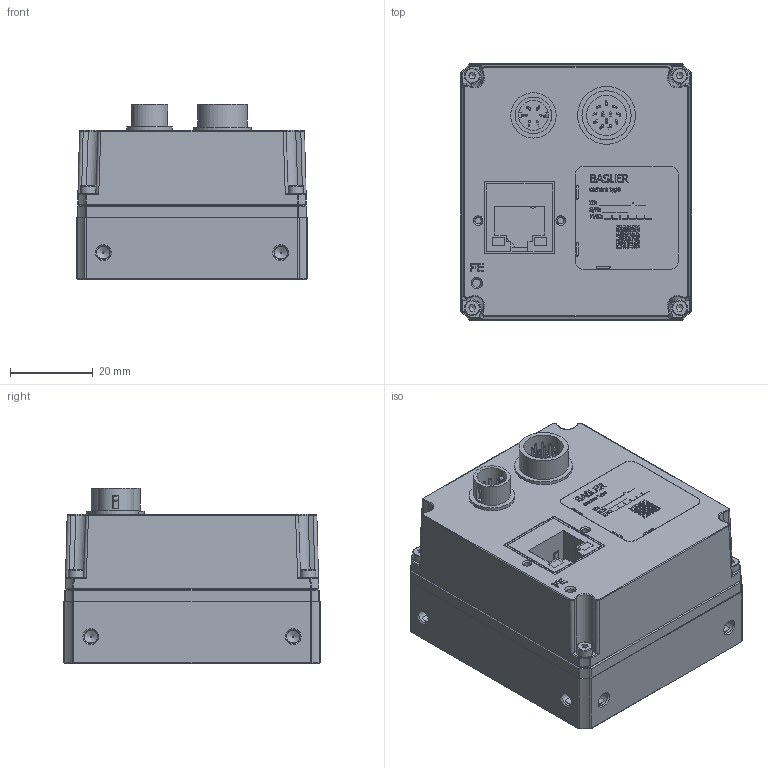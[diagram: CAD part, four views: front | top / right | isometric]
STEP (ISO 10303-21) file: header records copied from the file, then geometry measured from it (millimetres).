
FILE_DESCRIPTION(/* description */ (''),/* implementation_level */ '2;1');
FILE_NAME(/* name */ 'C:\Users\jobserver\Workspace\Designs\Storage\2012\10\018877.stp',/* time_stamp */ '2024-09-13T14:13:51+02:00',/* author */ ('rschmidt'),/* organization */ (''),/* preprocessor_version */ 'ST-DEVELOPER v18.1',/* originating_system */ 'Autodesk Inventor 2022',/* authorisation */ '0 mm^3');
FILE_SCHEMA (('CONFIG_CONTROL_DESIGN'));
Products named in the file (1): 018877
Bounding box: 56 x 62 x 42.45 mm (x, y, z)
Volume: 112300.5 mm3; surface area: 18786.3 mm2
Topology: 3 solids, 20 shells, 1731 faces, 4821 edges, 3187 vertices
Faces by surface type: plane 950, cylinder 344, bspline 260, cone 146, sphere 19, torus 12
Full cylindrical faces by diameter (mm): 0.55 x6, 0.6 x12, 1.567 x2, 2 x4, 2.013 x5, 2.1 x1, 3.242 x12, 3.8 x4, 8.85 x1, 9.7 x1, 11 x1, 11.9 x1, 14 x1, 46.7 x1, 47 x1
Entity records: 61327 total; most frequent: CARTESIAN_POINT 16856, ORIENTED_EDGE 9586, DIRECTION 7656, EDGE_CURVE 4793, VERTEX_POINT 3190, LINE 2928, VECTOR 2928, AXIS2_PLACEMENT_3D 2364
